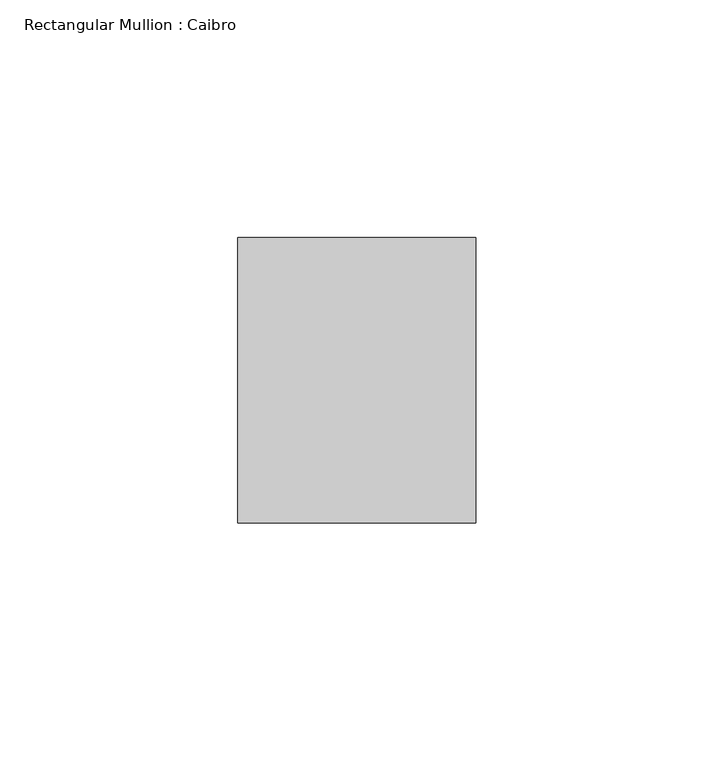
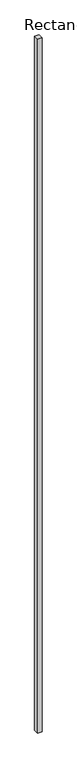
"""IFC4 building model written with IfcOpenShell, lengths in millimetres: member geometry, Rectangular Mullion : Caibro."""

from ifc_helpers import new_model, si_unit, frame, origin, place, context, project, spatial, polyline, outline, extrude, source, transform, mapped, element, save


def rectangular_mullion_caibro_1cbfab12(model_context):
    return source(origin(), model_context, "Body", "SweptSolid", [
        extrude(outline(polyline([(-50.0, -60.0), (-50.0, 0.0), (0.0, 0.0), (0.0, -60.0), (-50.0, -60.0)])), frame((0.0, 0.0, -8322.2452071), z_axis=(0.0, 0.0, 1.0), x_axis=(1.0, 0.0, 0.0)), (0.0, 0.0, 1.0), 8322.2452071),
    ])


if __name__ == "__main__":
    model = new_model("IFC4")
    model_context = context("Model", 3, world=origin())
    ifc_project = project(units=[si_unit("LENGTHUNIT", "METRE", prefix="MILLI")], contexts=[model_context])
    site = spatial("IfcSite", under=ifc_project)
    building = spatial("IfcBuilding", under=site)
    placement = place(None, origin())
    rectangular_mullion_caibro_shape = rectangular_mullion_caibro_1cbfab12(model_context)
    element("IfcMember", 1, ObjectType="Rectangular Mullion : Caibro", at=placement, inside=building, context=model_context, shape_type="MappedRepresentation", body=[
        mapped(rectangular_mullion_caibro_shape, transform((0.0, 0.0, 0.0), x_axis=(1.0, 0.0, 0.0), y_axis=(0.0, 1.0, 0.0), z_axis=(0.0, 0.0, 1.0))),
    ])
    save(model, "model.ifc")
